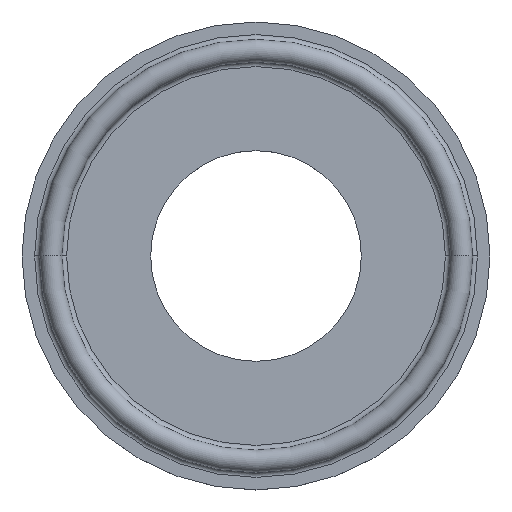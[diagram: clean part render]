
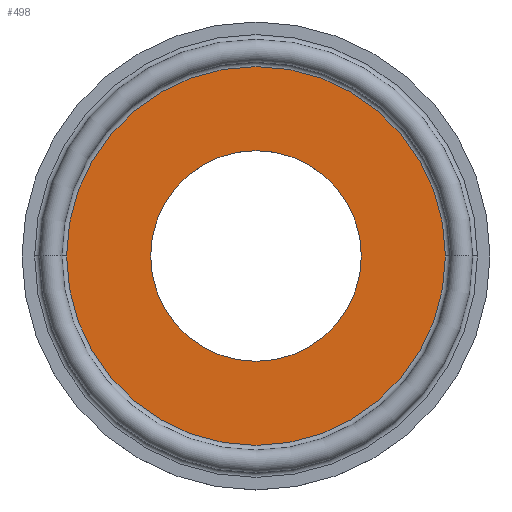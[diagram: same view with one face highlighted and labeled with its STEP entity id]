
A CAD part, top view. The second image highlights one B-rep face of the part: STEP entity #498.
In plain terms, the highlighted planar face has unit normal (0, 0, 1).
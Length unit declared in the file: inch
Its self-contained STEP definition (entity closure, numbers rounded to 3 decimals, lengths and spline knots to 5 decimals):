
#6 = DIRECTION ( 'NONE',  ( 1., 0., 0. ) ) ;
#50 = DIRECTION ( 'NONE',  ( 0., 0., 1. ) ) ;
#55 = CARTESIAN_POINT ( 'NONE',  ( 0.4405, 0., 0. ) ) ;
#94 = AXIS2_PLACEMENT_3D ( 'NONE', #512, #50, #142 ) ;
#111 = VERTEX_POINT ( 'NONE', #215 ) ;
#114 = CARTESIAN_POINT ( 'NONE',  ( 0., 0.4405, 0. ) ) ;
#125 = AXIS2_PLACEMENT_3D ( 'NONE', #466, #137, #411 ) ;
#137 = DIRECTION ( 'NONE',  ( 0., 0., 1. ) ) ;
#138 = DIRECTION ( 'NONE',  ( 1., 0., 0. ) ) ;
#142 = DIRECTION ( 'NONE',  ( 1., 0., 0. ) ) ;
#168 = CIRCLE ( 'NONE', #125, 0.79212 ) ;
#188 = EDGE_CURVE ( 'NONE', #237, #333, #274, .T. ) ;
#215 = CARTESIAN_POINT ( 'NONE',  ( -0.79212, 0., 0. ) ) ;
#217 = CIRCLE ( 'NONE', #499, 0.4405 ) ;
#237 = VERTEX_POINT ( 'NONE', #583 ) ;
#239 = DIRECTION ( 'NONE',  ( 0., 0., 1. ) ) ;
#240 = AXIS2_PLACEMENT_3D ( 'NONE', #114, #306, #435 ) ;
#251 = FACE_OUTER_BOUND ( 'NONE', #368, .T. ) ;
#252 = CIRCLE ( 'NONE', #94, 0.79212 ) ;
#268 = ORIENTED_EDGE ( 'NONE', *, *, #341, .T. ) ;
#274 = CIRCLE ( 'NONE', #353, 0.4405 ) ;
#284 = CARTESIAN_POINT ( 'NONE',  ( 0., 0., 0. ) ) ;
#296 = ORIENTED_EDGE ( 'NONE', *, *, #447, .F. ) ;
#306 = DIRECTION ( 'NONE',  ( 0., 0., -1. ) ) ;
#333 = VERTEX_POINT ( 'NONE', #55 ) ;
#336 = ORIENTED_EDGE ( 'NONE', *, *, #188, .F. ) ;
#341 = EDGE_CURVE ( 'NONE', #111, #426, #252, .T. ) ;
#353 = AXIS2_PLACEMENT_3D ( 'NONE', #457, #550, #138 ) ;
#368 = EDGE_LOOP ( 'NONE', ( #555, #268 ) ) ;
#379 = FACE_BOUND ( 'NONE', #566, .T. ) ;
#386 = EDGE_CURVE ( 'NONE', #426, #111, #168, .T. ) ;
#411 = DIRECTION ( 'NONE',  ( 1., 0., 0. ) ) ;
#417 = CARTESIAN_POINT ( 'NONE',  ( 0.79212, 0., 0. ) ) ;
#426 = VERTEX_POINT ( 'NONE', #417 ) ;
#435 = DIRECTION ( 'NONE',  ( -1., 0., 0. ) ) ;
#447 = EDGE_CURVE ( 'NONE', #333, #237, #217, .T. ) ;
#457 = CARTESIAN_POINT ( 'NONE',  ( 0., 0., 0. ) ) ;
#466 = CARTESIAN_POINT ( 'NONE',  ( 0., 0., 0. ) ) ;
#498 = ADVANCED_FACE ( 'NONE', ( #379, #251 ), #575, .F. ) ;
#499 = AXIS2_PLACEMENT_3D ( 'NONE', #284, #239, #6 ) ;
#512 = CARTESIAN_POINT ( 'NONE',  ( 0., 0., 0. ) ) ;
#550 = DIRECTION ( 'NONE',  ( 0., 0., 1. ) ) ;
#555 = ORIENTED_EDGE ( 'NONE', *, *, #386, .T. ) ;
#566 = EDGE_LOOP ( 'NONE', ( #296, #336 ) ) ;
#575 = PLANE ( 'NONE',  #240 ) ;
#583 = CARTESIAN_POINT ( 'NONE',  ( -0.4405, 0., 0. ) ) ;
